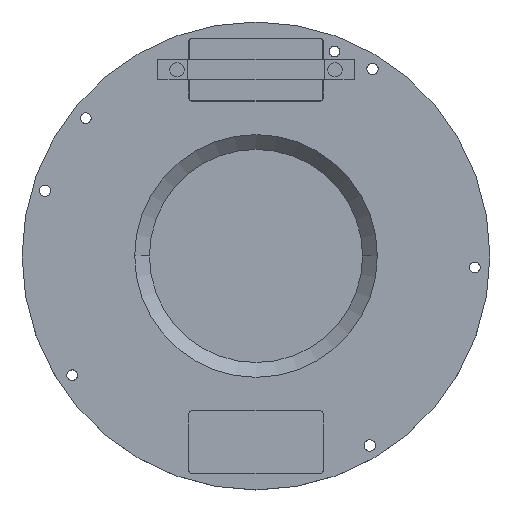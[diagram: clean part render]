
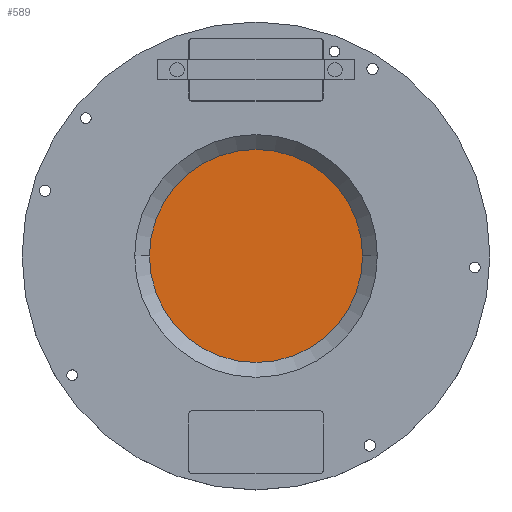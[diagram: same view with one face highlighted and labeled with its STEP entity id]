
A CAD part, top view. The second image highlights one B-rep face of the part: STEP entity #589.
In plain terms, the highlighted planar face has unit normal (0, 0, 1).
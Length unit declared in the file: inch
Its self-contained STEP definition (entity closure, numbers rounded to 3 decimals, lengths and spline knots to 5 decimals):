
#588 = ORIENTED_EDGE ( 'NONE', *, *, #668, .T. ) ;
#589 = ADVANCED_FACE ( 'NONE', ( #2246 ), #2269, .T. ) ;
#599 = EDGE_LOOP ( 'NONE', ( #623, #588 ) ) ;
#623 = ORIENTED_EDGE ( 'NONE', *, *, #641, .T. ) ;
#641 = EDGE_CURVE ( 'NONE', #748, #761, #2353, .T. ) ;
#668 = EDGE_CURVE ( 'NONE', #761, #748, #2512, .T. ) ;
#748 = VERTEX_POINT ( 'NONE', #2723 ) ;
#761 = VERTEX_POINT ( 'NONE', #2752 ) ;
#2246 = FACE_OUTER_BOUND ( 'NONE', #599, .T. ) ;
#2249 = AXIS2_PLACEMENT_3D ( 'NONE', #2253, #2252, #2264 ) ;
#2252 = DIRECTION ( 'NONE',  ( 0., 0., 1. ) ) ;
#2253 = CARTESIAN_POINT ( 'NONE',  ( 0., 0., 0.155 ) ) ;
#2264 = DIRECTION ( 'NONE',  ( 1., 0., 0. ) ) ;
#2269 = PLANE ( 'NONE',  #2249 ) ;
#2353 = CIRCLE ( 'NONE', #2355, 0.8925 ) ;
#2355 = AXIS2_PLACEMENT_3D ( 'NONE', #2380, #2379, #2378 ) ;
#2378 = DIRECTION ( 'NONE',  ( 1., 0., 0. ) ) ;
#2379 = DIRECTION ( 'NONE',  ( 0., 0., 1. ) ) ;
#2380 = CARTESIAN_POINT ( 'NONE',  ( 0., 0., 0.155 ) ) ;
#2511 = AXIS2_PLACEMENT_3D ( 'NONE', #2513, #2537, #2536 ) ;
#2512 = CIRCLE ( 'NONE', #2511, 0.8925 ) ;
#2513 = CARTESIAN_POINT ( 'NONE',  ( 0., 0., 0.155 ) ) ;
#2536 = DIRECTION ( 'NONE',  ( 1., 0., 0. ) ) ;
#2537 = DIRECTION ( 'NONE',  ( 0., 0., 1. ) ) ;
#2723 = CARTESIAN_POINT ( 'NONE',  ( -0.8925, 0., 0.155 ) ) ;
#2752 = CARTESIAN_POINT ( 'NONE',  ( 0.8925, 0., 0.155 ) ) ;
